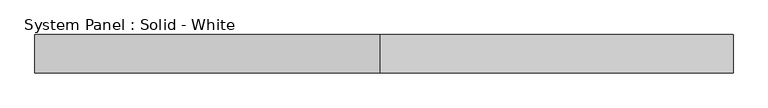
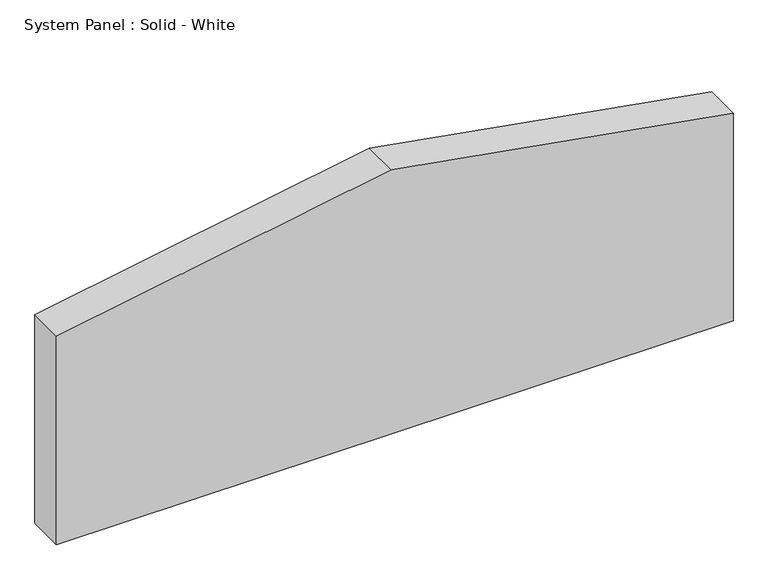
"""IFC4 building model written with IfcOpenShell, lengths in millimetres: plate geometry, System Panel : Solid - White."""

from ifc_helpers import new_model, si_unit, frame, origin, place, context, project, spatial, polyline, outline, extrude, source, transform, mapped, element, save


def system_panel_solid_white_e904192f(model_context):
    return source(origin(), model_context, "Body", "SweptSolid", [
        extrude(outline(polyline([(0.0, -575.3099999), (0.0, 575.3099999), (372.6420484, 575.3099999), (475.2044, -6.35), (374.8814011, -575.3099999), (0.0, -575.3099999)])), frame((0.0, -19.05, 0.0), z_axis=(0.0, 1.0, 0.0), x_axis=(0.0, 0.0, 1.0)), (0.0, 0.0, 1.0), 63.5),
    ])


if __name__ == "__main__":
    model = new_model("IFC4")
    model_context = context("Model", 3, world=origin())
    ifc_project = project(units=[si_unit("LENGTHUNIT", "METRE", prefix="MILLI")], contexts=[model_context])
    site = spatial("IfcSite", under=ifc_project)
    building = spatial("IfcBuilding", under=site)
    placement = place(None, origin())
    system_panel_solid_white_shape = system_panel_solid_white_e904192f(model_context)
    element("IfcPlate", 1, ObjectType="System Panel : Solid - White", at=placement, inside=building, context=model_context, shape_type="MappedRepresentation", body=[
        mapped(system_panel_solid_white_shape, transform((0.0, 0.0, 0.0), x_axis=(1.0, 0.0, 0.0), y_axis=(0.0, 1.0, 0.0), z_axis=(0.0, 0.0, 1.0))),
    ])
    save(model, "model.ifc")
